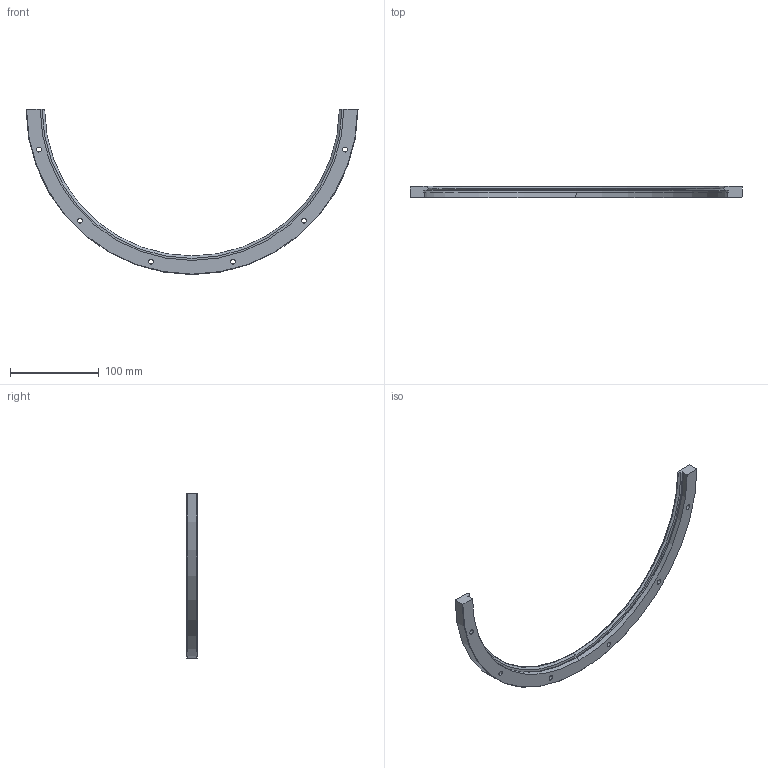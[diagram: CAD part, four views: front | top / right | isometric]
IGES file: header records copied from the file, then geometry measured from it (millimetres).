
Start section: 3D InterOp IGES (v. 2020 1.0.1), Spatial Corp. Copyright (c) 1999-2017.
Global section: file name: ris_374_r180.igs; native system: Spatial Corp.; preprocessor: 3D InterOp ACIS/IGES; author: TraceParts; organization: TraceParts S.A.; date: 20220624.062034; units: millimetre
Bounding box: 373.99 x 12.25 x 186 mm (x, y, z)
Surface area: 37518.6 mm2 (no closed solid volume)
Topology: 0 solids, 0 shells, 54 faces, 266 edges, 266 vertices
Faces by surface type: revolution 42, extrusion 12
